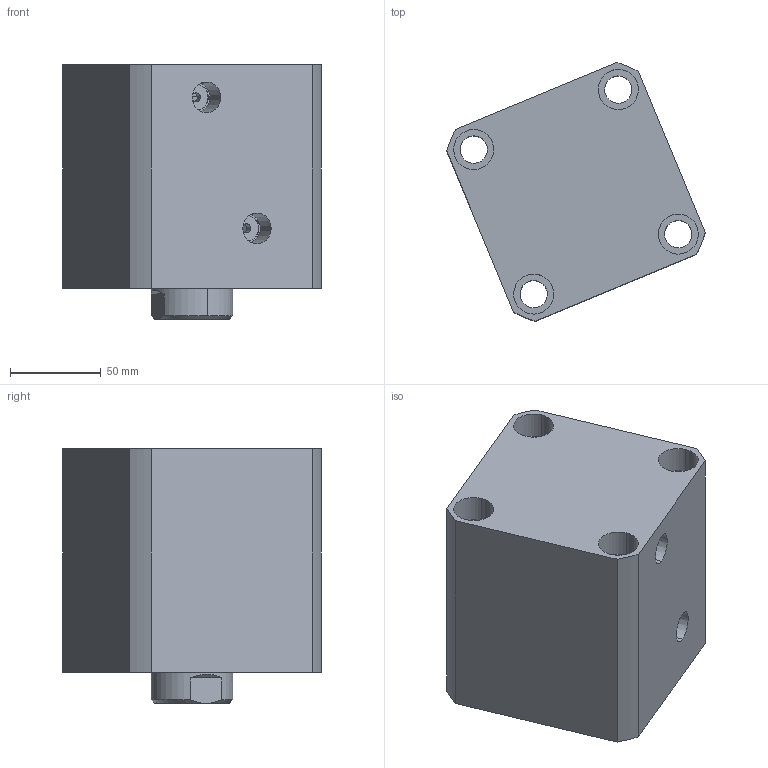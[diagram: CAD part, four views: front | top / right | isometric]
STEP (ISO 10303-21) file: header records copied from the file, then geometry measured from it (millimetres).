
FILE_DESCRIPTION (( 'STEP AP214' ), '1' );
FILE_NAME ('chtb-sd80x45n_asm.STEP', '2018-05-26T04:21:17', ( 'Windows' ), ( 'Microsoft' ), 'SwSTEP 2.0', 'SolidWorks 2015', '' );
FILE_SCHEMA (( 'AUTOMOTIVE_DESIGN' ));
Length unit declared in the file: millimetre
Products named in the file (4): CHTB-SD80X45NHSG; CHTB-SD80X45NBT; CHTB-SD80QG; chtb-sd80x45n_asm
Assembly tree (3 placements, depth 2):
  chtb-sd80x45n_asm
    CHTB-SD80QG
    CHTB-SD80X45NBT
    CHTB-SD80X45NHSG
Bounding box: 142.06 x 142.06 x 140 mm (x, y, z)
Volume: 1296816.9 mm3; surface area: 195587.7 mm2
Topology: 3 solids, 3 shells, 192 faces, 510 edges, 341 vertices
Faces by surface type: cylinder 103, plane 37, cone 20, torus 18, bspline 14
Entity records: 15144 total; most frequent: CARTESIAN_POINT 10435, ORIENTED_EDGE 1008, DIRECTION 889, EDGE_CURVE 504, AXIS2_PLACEMENT_3D 374, VERTEX_POINT 341, EDGE_LOOP 229, FACE_OUTER_BOUND 192
